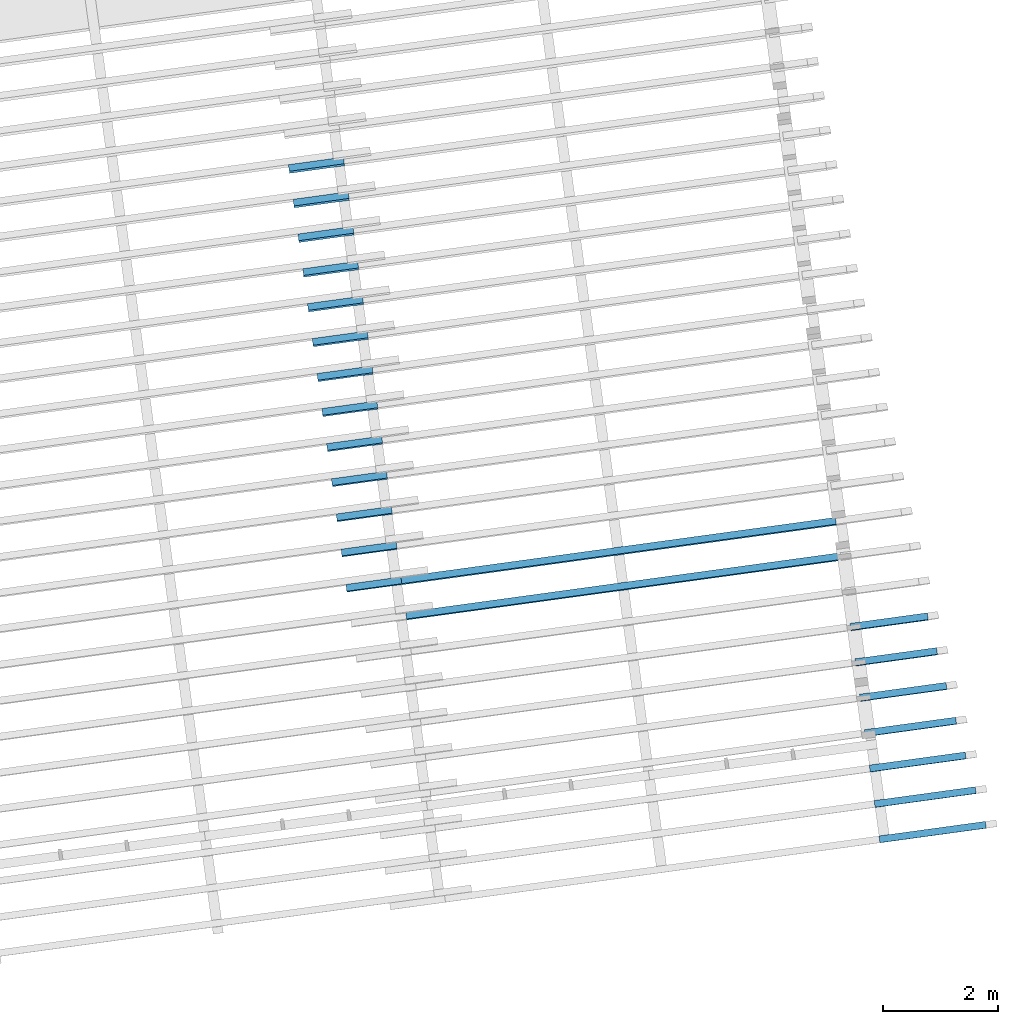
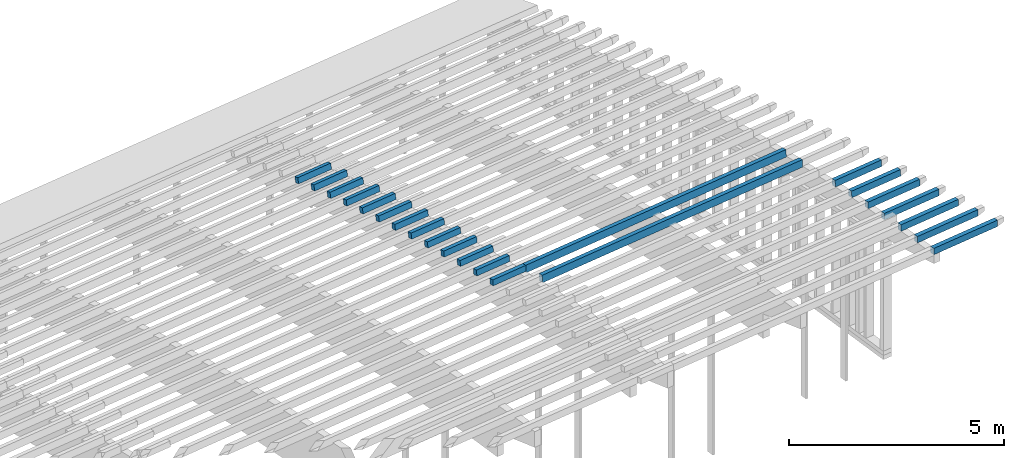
# One storey, part 11 of 18: 22 building element parts, 21 elements without a shape of their own.
"""IFC2X3 building model written with IfcOpenShell, lengths in metres."""

from ifc_helpers import new_model, entity, si_unit, converted_unit, derived_unit, money_unit, direction, frame, origin_with_axes, place, context, subcontext, project, spatial, faceted_brep, material, type_object, element, aggregate, save


model = new_model("IFC2X3")

# Units and contexts
model_context = context("Model", 3, precision=1e-05, world=origin_with_axes(), true_north=direction((0.0, 1.0)))
body_context = subcontext(model_context, "Body", "Model", "MODEL_VIEW")
ifc_project = project(units=[si_unit("LENGTHUNIT", "METRE"), si_unit("AREAUNIT", "SQUARE_METRE"), si_unit("VOLUMEUNIT", "CUBIC_METRE"), converted_unit("PLANEANGLEUNIT", "DEGREE", entity("IfcPlaneAngleMeasure", 0.0174532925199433), si_unit("PLANEANGLEUNIT", "RADIAN"), dimensions=[0, 0, 0, 0, 0, 0, 0]), money_unit("EUR"), converted_unit("TIMEUNIT", "Year", entity("IfcTimeMeasure", 31557600.0), si_unit("TIMEUNIT", "SECOND"), dimensions=[0, 0, 1, 0, 0, 0, 0]), si_unit("MASSUNIT", "GRAM", prefix="KILO"), si_unit("THERMODYNAMICTEMPERATUREUNIT", "DEGREE_CELSIUS"), si_unit("LUMINOUSINTENSITYUNIT", "LUMEN"), si_unit("ENERGYUNIT", "JOULE", prefix="MEGA"), derived_unit("THERMALCONDUCTANCEUNIT", [(si_unit("POWERUNIT", "WATT"), 1), (si_unit("LENGTHUNIT", "METRE"), -1), (si_unit("THERMODYNAMICTEMPERATUREUNIT", "KELVIN"), -1)]), derived_unit("SPECIFICHEATCAPACITYUNIT", [(si_unit("ENERGYUNIT", "JOULE"), 1), (si_unit("MASSUNIT", "GRAM", prefix="KILO"), -1), (si_unit("THERMODYNAMICTEMPERATUREUNIT", "KELVIN"), -1)]), derived_unit("MASSDENSITYUNIT", [(si_unit("MASSUNIT", "GRAM", prefix="KILO"), 1), (si_unit("VOLUMEUNIT", "CUBIC_METRE"), -1)])], contexts=[model_context])

# Site, building, storey
site_placement = place(None, origin_with_axes())
site = spatial("IfcSite", under=ifc_project, at=site_placement, Name="Gelände", CompositionType="ELEMENT")
building_placement = place(site_placement, origin_with_axes())
building = spatial("IfcBuilding", under=site, at=building_placement, Name="Gebäude", CompositionType="ELEMENT")
storey_placement = place(building_placement, frame((0.0, 0.0, 5.5), z_axis=(0.0, 0.0, 1.0), x_axis=(1.0, 0.0, 0.0)))
storey = spatial("IfcBuildingStorey", under=building, at=storey_placement, Name="OG", CompositionType="ELEMENT", Elevation=5.5)

# Beam, building element part
beam_type_1 = type_object("IfcBeamType", Name="Verschiedene Strukturen - 4 Segmente - 120 x 200 x 10694 (970+7659+1875+190)", PredefinedType="NOTDEFINED")
beam_1_placement = place(storey_placement, frame((105.3127329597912, -150.0833279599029, 4.984403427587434), z_axis=(0.0, 0.0, 1.0), x_axis=(0.13571118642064, -0.9907484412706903, 0.0)))
beam_1 = element("IfcBeam", 1, at=beam_1_placement, inside=storey, type_object=beam_type_1, Name="Unterzug-031")
ifc_material = material(Name="Bauholz")
building_element_part_1_placement = place(beam_1_placement, origin_with_axes())
building_element_part_1 = element("IfcBuildingElementPart", 2, at=building_element_part_1_placement, material=ifc_material, Name="Bauholz", context=body_context, shape_type="Brep", body=[
    faceted_brep([(-0.05820635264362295, 8.629151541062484, -0.1805879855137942), (-0.05820635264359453, 10.50400000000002, -0.1805879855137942), (0.06178770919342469, 10.504, -0.1793941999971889), (0.06178770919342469, 8.629151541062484, -0.1793941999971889), (-0.05999703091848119, 8.629151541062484, -0.0005968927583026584), (-0.05999703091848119, 10.504, -0.0005968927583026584), (0.05999703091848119, 10.504, 0.0005968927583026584), (0.05999703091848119, 8.629151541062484, 0.0005968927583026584)], [[[0, 1, 2, 3]], [[4, 5, 1, 0]], [[2, 1, 5, 6]], [[3, 2, 6, 7]], [[4, 0, 3, 7]], [[7, 6, 5, 4]]]),
])
aggregate(beam_1, [building_element_part_1])

beam_type_2 = type_object("IfcBeamType", Name="Verschiedene Strukturen - 4 Segmente - 120 x 200 x 10600 (970+7659+1781+190)", PredefinedType="NOTDEFINED")
beam_2_placement = place(storey_placement, frame((105.2280311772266, -149.4649695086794, 4.975930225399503), z_axis=(0.0, 0.0, 1.0), x_axis=(0.1357111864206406, -0.9907484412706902, 0.0)))
beam_2 = element("IfcBeam", 3, at=beam_2_placement, inside=storey, type_object=beam_type_2, Name="Unterzug-031")
building_element_part_2_placement = place(beam_2_placement, origin_with_axes())
building_element_part_2 = element("IfcBuildingElementPart", 4, at=building_element_part_2_placement, material=ifc_material, Name="Bauholz", context=body_context, shape_type="Brep", body=[
    faceted_brep([(-0.05672303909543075, 8.629154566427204, -0.1810593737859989), (-0.05672303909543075, 10.40999999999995, -0.1810593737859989), (0.0632571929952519, 10.40999999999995, -0.1788813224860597), (0.06325719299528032, 8.62915456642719, -0.1788813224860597), (-0.05999011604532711, 8.62915456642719, -0.001089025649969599), (-0.05999011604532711, 10.40999999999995, -0.001089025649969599), (0.05999011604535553, 10.40999999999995, 0.001089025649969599), (0.05999011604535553, 8.62915456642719, 0.001089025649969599)], [[[0, 1, 2, 3]], [[4, 5, 1, 0]], [[2, 1, 5, 6]], [[3, 2, 6, 7]], [[4, 0, 3, 7]], [[7, 6, 5, 4]]]),
])
aggregate(beam_2, [building_element_part_2])

beam_type_3 = type_object("IfcBeamType", Name="Verschiedene Strukturen - 4 Segmente - 120 x 200 x 10509 (970+7659+1690+190)", PredefinedType="NOTDEFINED")
beam_3_placement = place(storey_placement, frame((105.1432004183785, -148.8456694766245, 4.960992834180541), z_axis=(0.0, 0.0, 1.0), x_axis=(0.1357111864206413, -0.9907484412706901, 0.0)))
beam_3 = element("IfcBeam", 5, at=beam_3_placement, inside=storey, type_object=beam_type_3, Name="Unterzug-031")
building_element_part_3_placement = place(beam_3_placement, origin_with_axes())
building_element_part_3 = element("IfcBuildingElementPart", 6, at=building_element_part_3_placement, material=ifc_material, Name="Bauholz", context=body_context, shape_type="Brep", body=[
    faceted_brep([(-0.0547605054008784, 8.62915154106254, -0.1816625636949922), (-0.0547605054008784, 10.31899999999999, -0.1816625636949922), (0.06518913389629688, 10.31899999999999, -0.1781863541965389), (0.06518913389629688, 8.629151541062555, -0.1781863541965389), (-0.05997481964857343, 8.629151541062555, -0.001738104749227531), (-0.05997481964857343, 10.31899999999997, -0.001738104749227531), (0.05997481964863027, 10.31899999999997, 0.001738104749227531), (0.05997481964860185, 8.62915154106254, 0.001738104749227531)], [[[0, 1, 2, 3]], [[4, 5, 1, 0]], [[2, 1, 5, 6]], [[3, 2, 6, 7]], [[4, 0, 3, 7]], [[7, 6, 5, 4]]]),
])
aggregate(beam_3, [building_element_part_3])

beam_type_4 = type_object("IfcBeamType", Name="Verschiedene Strukturen - 4 Segmente - 120 x 200 x 10426 (970+7659+1607+190)", PredefinedType="NOTDEFINED")
beam_4_placement = place(storey_placement, frame((105.0584006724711, -148.2265958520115, 4.939661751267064), z_axis=(0.0, 0.0, 1.0), x_axis=(0.1357111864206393, -0.9907484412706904, 0.0)))
beam_4 = element("IfcBeam", 7, at=beam_4_placement, inside=storey, type_object=beam_type_4, Name="Unterzug-031")
building_element_part_4_placement = place(beam_4_placement, origin_with_axes())
building_element_part_4 = element("IfcBuildingElementPart", 8, at=building_element_part_4_placement, material=ifc_material, Name="Bauholz", context=body_context, shape_type="Brep", body=[
    faceted_brep([(0.06689657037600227, 8.629160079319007, -0.1775523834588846), (-0.05301417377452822, 8.629160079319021, -0.1821798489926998), (-0.05301417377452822, 10.23626930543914, -0.1821798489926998), (0.06689657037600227, 10.23626930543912, -0.1775523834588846), (0.05995537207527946, 8.629160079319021, 0.002313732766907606), (-0.05995537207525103, 8.629160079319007, -0.002313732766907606), (-0.05995537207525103, 10.23626930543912, -0.002313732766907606), (0.05995537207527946, 10.23626930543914, 0.002313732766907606)], [[[0, 1, 2, 3]], [[4, 5, 1, 0]], [[1, 5, 6, 2]], [[7, 3, 2, 6]], [[4, 0, 3, 7]], [[5, 4, 7, 6]]]),
])
aggregate(beam_4, [building_element_part_4])

beam_type_5 = type_object("IfcBeamType", Name="Verschiedene Strukturen - 4 Segmente - 120 x 200 x 10342 (970+7659+1523+190)", PredefinedType="NOTDEFINED")
beam_5_placement = place(storey_placement, frame((104.9736313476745, -147.6077443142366, 4.912074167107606), z_axis=(0.0, 0.0, 1.0), x_axis=(0.1357111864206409, -0.9907484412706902, 0.0)))
beam_5 = element("IfcBeam", 9, at=beam_5_placement, inside=storey, type_object=beam_type_5, Name="Unterzug-031")
building_element_part_5_placement = place(beam_5_placement, origin_with_axes())
building_element_part_5 = element("IfcBuildingElementPart", 10, at=building_element_part_5_placement, material=ifc_material, Name="Bauholz", context=body_context, shape_type="Brep", body=[
    faceted_brep([(0.06872132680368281, 8.629162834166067, -0.176854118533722), (-0.05113540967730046, 8.629162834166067, -0.1827160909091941), (-0.05113540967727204, 10.15194335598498, -0.1827160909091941), (0.06872132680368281, 10.15194335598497, -0.176854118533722), (0.05992836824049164, 8.629162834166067, 0.002930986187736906), (-0.05992836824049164, 8.629162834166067, -0.002930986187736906), (-0.05992836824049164, 10.15194335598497, -0.002930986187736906), (0.05992836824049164, 10.15194335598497, 0.002930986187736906)], [[[0, 1, 2, 3]], [[4, 5, 1, 0]], [[1, 5, 6, 2]], [[7, 3, 2, 6]], [[4, 0, 3, 7]], [[5, 4, 7, 6]]]),
])
aggregate(beam_5, [building_element_part_5])

beam_type_6 = type_object("IfcBeamType", Name="Verschiedene Strukturen - 4 Segmente - 120 x 200 x 10261 (970+7659+1442+190)", PredefinedType="NOTDEFINED")
beam_6_placement = place(storey_placement, frame((104.8889035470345, -146.9891959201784, 4.878264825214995), z_axis=(0.0, 0.0, 1.0), x_axis=(0.1357111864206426, -0.99074844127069, 0.0)))
beam_6 = element("IfcBeam", 11, at=beam_6_placement, inside=storey, type_object=beam_type_6, Name="Unterzug-031")
building_element_part_6_placement = place(beam_6_placement, origin_with_axes())
building_element_part_6 = element("IfcBuildingElementPart", 12, at=building_element_part_6_placement, material=ifc_material, Name="Bauholz", context=body_context, shape_type="Brep", body=[
    faceted_brep([(0.07056953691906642, 8.629165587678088, -0.1761247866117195), (-0.049219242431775, 8.629165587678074, -0.183241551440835), (-0.04921924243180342, 10.07111797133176, -0.183241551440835), (0.07056953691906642, 10.07111797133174, -0.1761247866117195), (0.05989438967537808, 8.629165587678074, 0.00355838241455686), (-0.05989438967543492, 8.62916558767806, -0.00355838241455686), (-0.05989438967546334, 10.07111797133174, -0.00355838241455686), (0.05989438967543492, 10.07111797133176, 0.00355838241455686)], [[[0, 1, 2, 3]], [[4, 5, 1, 0]], [[1, 5, 6, 2]], [[7, 3, 2, 6]], [[4, 0, 3, 7]], [[5, 4, 7, 6]]]),
])
aggregate(beam_6, [building_element_part_6])

beam_type_7 = type_object("IfcBeamType", Name="Verschiedene Strukturen - 4 Segmente - 120 x 200 x 10184 (970+7659+1365+190)", PredefinedType="NOTDEFINED")
beam_7_placement = place(storey_placement, frame((104.8042278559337, -146.3710279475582, 4.837969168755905), z_axis=(0.0, 0.0, 1.0), x_axis=(0.1357111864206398, -0.9907484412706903, 0.0)))
beam_7 = element("IfcBeam", 13, at=beam_7_placement, inside=storey, type_object=beam_type_7, Name="Unterzug-031")
building_element_part_7_placement = place(beam_7_placement, origin_with_axes())
building_element_part_7 = element("IfcBuildingElementPart", 14, at=building_element_part_7_placement, material=ifc_material, Name="Bauholz", context=body_context, shape_type="Brep", body=[
    faceted_brep([(0.07225693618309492, 8.629168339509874, -0.1754392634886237), (-0.04745800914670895, 8.629168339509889, -0.183705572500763), (-0.04745800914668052, 9.993783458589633, -0.183705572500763), (0.07225693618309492, 9.993783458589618, -0.1754392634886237), (0.05985747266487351, 8.629168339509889, 0.004133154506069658), (-0.05985747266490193, 8.629168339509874, -0.004133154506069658), (-0.05985747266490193, 9.993783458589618, -0.004133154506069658), (0.05985747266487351, 9.993783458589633, 0.004133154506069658)], [[[0, 1, 2, 3]], [[4, 5, 1, 0]], [[1, 5, 6, 2]], [[7, 3, 2, 6]], [[4, 0, 3, 7]], [[5, 4, 7, 6]]]),
])
aggregate(beam_7, [building_element_part_7])

beam_type_8 = type_object("IfcBeamType", Name="Verschiedene Strukturen - 4 Segmente - 120 x 200 x 10040 (970+7659+1220+190)", PredefinedType="NOTDEFINED")
beam_8_placement = place(storey_placement, frame((104.6350613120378, -145.1360413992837, 4.738673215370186), z_axis=(0.0, 0.0, 1.0), x_axis=(0.1357111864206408, -0.9907484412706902, 0.0)))
beam_8 = element("IfcBeam", 15, at=beam_8_placement, inside=storey, type_object=beam_type_8, Name="Unterzug-031")
building_element_part_8_placement = place(beam_8_placement, origin_with_axes())
building_element_part_8 = element("IfcBuildingElementPart", 16, at=building_element_part_8_placement, material=ifc_material, Name="Bauholz", context=body_context, shape_type="Brep", body=[
    faceted_brep([(-0.04511209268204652, 0.9699999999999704, -0.1647757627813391), (-0.04550138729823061, 0.9699999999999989, -0.164811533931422), (-0.04194790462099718, 0.9699999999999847, -0.204549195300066), (0.07757515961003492, 0.9699999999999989, -0.1938610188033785), (0.05976153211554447, 0.9699999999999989, 0.005344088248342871), (-0.05976153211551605, 0.9699999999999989, -0.005344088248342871), (-0.05974760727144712, 0.9699999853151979, -0.005498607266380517), (-0.04511209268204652, 1.451946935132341, -0.1647757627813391), (-0.04550129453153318, 1.451946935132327, -0.1648115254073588), (-0.05976153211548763, 8.62917495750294, -0.005344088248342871), (-0.04194790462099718, 8.629174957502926, -0.204549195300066), (-0.05974811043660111, 1.451946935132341, -0.005493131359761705), (-0.05976179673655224, 4.73293729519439, -0.005344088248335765), (-0.0455104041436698, 4.732937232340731, -0.1647107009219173), (-0.04551039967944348, 4.852937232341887, -0.1647107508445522), (-0.05976126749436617, 4.852937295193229, -0.005344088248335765), (0.07757515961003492, 8.62917495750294, -0.1938610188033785), (0.07401259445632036, 4.732939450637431, -0.1540217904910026), (0.05976126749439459, 4.732939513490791, 0.005344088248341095), (0.05976153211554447, 8.629174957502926, 0.005344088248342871), (0.05976179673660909, 4.852939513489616, 0.005344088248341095), (0.07401259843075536, 4.852939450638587, -0.1540218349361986), (-0.04474307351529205, 4.732937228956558, -0.1646377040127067), (-0.04474254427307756, 4.852937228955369, -0.1646377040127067), (0.07368400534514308, 4.732939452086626, -0.1540495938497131), (0.07368453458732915, 4.852939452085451, -0.1540495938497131)], [[[0, 1, 2, 3, 4, 5, 6]], [[7, 8, 1, 0]], [[9, 10, 2, 1, 8, 11, 6, 5, 12, 13, 14, 15]], [[10, 16, 3, 2]], [[17, 18, 4, 3, 16, 19, 20, 21]], [[15, 12, 5, 4, 18, 20, 19, 9]], [[11, 7, 0, 6]], [[11, 8, 7]], [[10, 9, 19, 16]], [[13, 12, 22]], [[23, 14, 13, 22]], [[23, 15, 14]], [[24, 18, 17]], [[21, 20, 25]], [[21, 25, 24, 17]], [[15, 23, 22, 12]], [[25, 20, 18, 24]]]),
])
aggregate(beam_8, [building_element_part_8])

beam_type_9 = type_object("IfcBeamType", Name="Verschiedene Strukturen - 4 Segmente - 120 x 200 x 9973 (970+7659+1153+190)", PredefinedType="NOTDEFINED")
beam_9_placement = place(storey_placement, frame((104.5505891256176, -144.5193590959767, 4.679531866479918), z_axis=(0.0, 0.0, 1.0), x_axis=(0.1357111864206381, -0.9907484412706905, 0.0)))
beam_9 = element("IfcBeam", 17, at=beam_9_placement, inside=storey, type_object=beam_type_9, Name="Unterzug-031")
building_element_part_9_placement = place(beam_9_placement, origin_with_axes())
building_element_part_9 = element("IfcBuildingElementPart", 18, at=building_element_part_9_placement, material=ifc_material, Name="Bauholz", context=body_context, shape_type="Brep", body=[
    faceted_brep([(-0.04384100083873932, 0.0, -0.16516042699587), (-0.0438410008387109, 0.7919469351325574, -0.16516042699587), (-0.04344862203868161, 0.7919469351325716, -0.1651213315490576), (-0.04344862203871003, 0.9699999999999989, -0.1651213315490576), (0.07556774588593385, 0.9699999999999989, -0.1532628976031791), (0.07556774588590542, 0.0, -0.1532628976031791), (-0.05969023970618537, 0.9699999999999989, -0.00605403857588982), (-0.05969384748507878, 0.7919469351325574, -0.006054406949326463), (-0.05970437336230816, 0.0, -0.005948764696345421), (-0.05970437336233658, 0.9699999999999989, -0.005948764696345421), (0.05970437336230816, 0.9699999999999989, 0.005948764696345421), (0.05970437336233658, 0.0, 0.005948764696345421)], [[[0, 1, 2, 3, 4, 5]], [[6, 7, 1, 0, 8, 9]], [[7, 2, 1]], [[7, 6, 3, 2]], [[3, 6, 9, 10, 4]], [[4, 10, 11, 5]], [[0, 5, 11, 8]], [[10, 9, 8, 11]]]),
])

beam_type_10 = type_object("IfcBeamType", Name="Verschiedene Strukturen - 4 Segmente - 120 x 200 x 9909 (970+7659+1090+190)", PredefinedType="NOTDEFINED")
beam_10_placement = place(storey_placement, frame((104.4662017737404, -143.9032961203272, 4.614089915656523), z_axis=(0.0, 0.0, 1.0), x_axis=(0.1357111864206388, -0.9907484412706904, 0.0)))
beam_10 = element("IfcBeam", 19, at=beam_10_placement, inside=storey, type_object=beam_type_10, Name="Unterzug-031")
building_element_part_10_placement = place(beam_10_placement, origin_with_axes())
building_element_part_10 = element("IfcBuildingElementPart", 20, at=building_element_part_10_placement, material=ifc_material, Name="Bauholz", context=body_context, shape_type="Brep", body=[
    faceted_brep([(-0.04208016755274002, 0.0, -0.1656178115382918), (-0.04208016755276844, 0.7919469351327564, -0.1656178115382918), (-0.04176214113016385, 0.791946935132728, -0.1655827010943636), (-0.04176214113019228, 0.9700000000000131, -0.1655827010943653), (0.07719514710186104, 0.9700000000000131, -0.1524496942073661), (0.07719514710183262, 0.0, -0.1524496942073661), (-0.05962937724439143, 0.9699999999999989, -0.006659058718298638), (-0.05962937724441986, 0.7919469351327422, -0.006659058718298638), (-0.05963765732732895, 0.0, -0.006584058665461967), (-0.05963765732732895, 0.9699999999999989, -0.006584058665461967), (-0.05961653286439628, 0.7919469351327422, -0.006657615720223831), (-0.05961653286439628, 0.9700000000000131, -0.006657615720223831), (0.05963765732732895, 0.9700000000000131, 0.006584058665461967), (0.05963765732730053, 0.0, 0.006584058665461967)], [[[0, 1, 2, 3, 4, 5]], [[6, 7, 1, 0, 8, 9]], [[10, 2, 1, 7]], [[10, 11, 3, 2]], [[3, 11, 6, 9, 12, 4]], [[13, 5, 4, 12]], [[13, 8, 0, 5]], [[10, 7, 6, 11]], [[8, 13, 12, 9]]]),
])
aggregate(beam_10, [building_element_part_10])

beam_type_11 = type_object("IfcBeamType", Name="Verschiedene Strukturen - 4 Segmente - 120 x 200 x 9849 (970+7659+1030+190)", PredefinedType="NOTDEFINED")
beam_11_placement = place(storey_placement, frame((104.3819138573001, -143.2879590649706, 4.54227047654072), z_axis=(0.0, 0.0, 1.0), x_axis=(0.1357111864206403, -0.9907484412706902, 0.0)))
beam_11 = element("IfcBeam", 21, at=beam_11_placement, inside=storey, type_object=beam_type_11, Name="Unterzug-031")
building_element_part_11_placement = place(beam_11_placement, origin_with_axes())
building_element_part_11 = element("IfcBuildingElementPart", 22, at=building_element_part_11_placement, material=ifc_material, Name="Bauholz", context=body_context, shape_type="Brep", body=[
    faceted_brep([(-0.04045946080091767, 0.0, -0.1660211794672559), (-0.04045946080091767, 0.7919469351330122, -0.1660211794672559), (-0.04010450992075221, 0.7919469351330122, -0.1659784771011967), (-0.04010450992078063, 0.9699999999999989, -0.1659784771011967), (0.07868145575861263, 0.9699999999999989, -0.1516879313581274), (0.07868145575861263, 0.0, -0.1516879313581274), (-0.05927993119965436, 0.9699999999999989, -0.009581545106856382), (-0.0592799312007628, 0.791946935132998, -0.009581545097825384), (-0.05957045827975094, 0.0, -0.007166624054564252), (-0.05957045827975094, 0.9699999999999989, -0.007166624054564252), (0.05957045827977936, 0.9700000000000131, 0.007166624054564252), (0.05957045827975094, 0.0, 0.007166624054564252)], [[[0, 1, 2, 3, 4, 5]], [[6, 7, 1, 0, 8, 9]], [[7, 2, 1]], [[7, 6, 3, 2]], [[4, 3, 6, 9, 10]], [[4, 10, 11, 5]], [[0, 5, 11, 8]], [[10, 9, 8, 11]]]),
])
aggregate(beam_11, [building_element_part_11])

beam_type_12 = type_object("IfcBeamType", Name="Verschiedene Strukturen - 4 Segmente - 120 x 200 x 9793 (970+7659+974+190)", PredefinedType="NOTDEFINED")
beam_12_placement = place(storey_placement, frame((104.2977254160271, -142.6733482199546, 4.46423359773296), z_axis=(0.0, 0.0, 1.0), x_axis=(0.135711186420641, -0.9907484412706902, 0.0)))
beam_12 = element("IfcBeam", 23, at=beam_12_placement, inside=storey, type_object=beam_type_12, Name="Unterzug-031")
building_element_part_12_placement = place(beam_12_placement, origin_with_axes())
building_element_part_12 = element("IfcBuildingElementPart", 24, at=building_element_part_12_placement, material=ifc_material, Name="Bauholz", context=body_context, shape_type="Brep", body=[
    faceted_brep([(-0.03872322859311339, 0.9700000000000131, -0.1664012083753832), (-0.03842463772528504, 0.9700000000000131, -0.1663615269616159), (-0.05949798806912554, 0.9700000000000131, -0.007790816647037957), (0.05949214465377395, 0.9700000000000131, 0.00779004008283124), (0.08026558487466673, 0.9700000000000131, -0.1508556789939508), (-0.03871870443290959, 0.9700000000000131, -0.1664357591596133), (-0.03842463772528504, 0.7919469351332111, -0.1663615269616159), (-0.03872322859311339, 0.7919469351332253, -0.166401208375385), (-0.05949798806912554, 0.7919469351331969, -0.007790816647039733), (-0.05949214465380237, 0.0, -0.00779004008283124), (0.05949214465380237, 0.0, 0.00779004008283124), (0.08026558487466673, 0.0, -0.1508556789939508), (-0.03871870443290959, 0.0, -0.1664357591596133)], [[[0, 1, 2, 3, 4, 5]], [[6, 1, 0, 7]], [[8, 2, 1, 6]], [[3, 2, 8, 9, 10]], [[10, 11, 4, 3]], [[11, 12, 5, 4]], [[8, 7, 0, 5, 12, 9]], [[6, 7, 8]], [[10, 9, 12, 11]]]),
])
aggregate(beam_12, [building_element_part_12])

beam_type_13 = type_object("IfcBeamType", Name="Verschiedene Strukturen - 4 Segmente - 120 x 200 x 9740 (970+7659+920+190)", PredefinedType="NOTDEFINED")
beam_13_placement = place(storey_placement, frame((104.2136436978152, -142.0595164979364, 4.380047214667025), z_axis=(0.0, 0.0, 1.0), x_axis=(0.13571118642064, -0.9907484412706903, 0.0)))
beam_13 = element("IfcBeam", 25, at=beam_13_placement, inside=storey, type_object=beam_type_13, Name="Unterzug-031")
building_element_part_13_placement = place(beam_13_placement, origin_with_axes())
building_element_part_13 = element("IfcBuildingElementPart", 26, at=building_element_part_13_placement, material=ifc_material, Name="Bauholz", context=body_context, shape_type="Brep", body=[
    faceted_brep([(-0.03711927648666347, 0.0, -0.166799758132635), (-0.03711927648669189, 0.7919469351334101, -0.166799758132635), (-0.03672131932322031, 0.7919469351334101, -0.1667437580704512), (-0.03672131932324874, 0.9700000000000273, -0.1667437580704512), (0.08170997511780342, 0.9700000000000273, -0.1500782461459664), (0.08170997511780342, 0.0, -0.1500782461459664), (-0.05939997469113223, 0.9700000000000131, -0.008464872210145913), (-0.05939997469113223, 0.7919469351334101, -0.00846487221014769), (-0.05941462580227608, 0.0, -0.008360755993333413), (-0.05941462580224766, 0.9700000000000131, -0.008360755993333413), (-0.05938890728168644, 0.7919469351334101, -0.008463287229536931), (-0.05938890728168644, 0.9700000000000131, -0.008463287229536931), (0.05941462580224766, 0.9700000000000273, 0.008360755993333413), (0.05941462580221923, 0.0, 0.008360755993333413)], [[[0, 1, 2, 3, 4, 5]], [[6, 7, 1, 0, 8, 9]], [[10, 2, 1, 7]], [[10, 11, 3, 2]], [[3, 11, 6, 9, 12, 4]], [[13, 5, 4, 12]], [[13, 8, 0, 5]], [[10, 7, 6, 11]], [[8, 13, 12, 9]]]),
])
aggregate(beam_13, [building_element_part_13])

# Building element part
building_element_part_14_placement = place(beam_9_placement, origin_with_axes())
building_element_part_14 = element("IfcBuildingElementPart", 27, at=building_element_part_14_placement, material=ifc_material, Name="Bauholz", context=body_context, shape_type="Brep", body=[
    faceted_brep([(-0.04383042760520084, 0.9699999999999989, -0.1652665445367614), (-0.04383068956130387, 1.451946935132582, -0.1652665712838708), (-0.05969410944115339, 1.451946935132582, -0.006054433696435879), (-0.05969023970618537, 0.9699999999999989, -0.00605403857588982), (-0.05970437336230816, 0.9700000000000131, -0.005948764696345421), (-0.0597046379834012, 4.732937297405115, -0.005948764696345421), (-0.04384075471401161, 4.732937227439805, -0.1651628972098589), (-0.04384074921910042, 4.852937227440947, -0.1651629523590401), (-0.05970410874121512, 4.852937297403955, -0.005948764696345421), (-0.05970437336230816, 8.629176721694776, -0.005948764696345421), (-0.03987515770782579, 8.62917672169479, -0.2049633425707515), (-0.03987515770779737, 0.9699999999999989, -0.2049633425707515), (-0.04343788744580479, 0.9699999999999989, -0.1652264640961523), (-0.04343788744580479, 1.451946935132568, -0.1652264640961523), (0.07953358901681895, 0.9700000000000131, -0.1930658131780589), (0.05970437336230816, 0.9699999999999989, 0.005948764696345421), (0.05970410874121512, 4.732939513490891, 0.005948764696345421), (0.05970463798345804, 4.85293951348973, 0.005948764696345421), (0.05970437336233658, 8.62917672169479, 0.005948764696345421), (-0.04308338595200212, 4.732937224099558, -0.165083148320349), (-0.04308285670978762, 4.852937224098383, -0.165083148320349), (0.07953358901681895, 8.62917672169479, -0.1930658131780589), (0.07556790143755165, 4.732939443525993, -0.1532644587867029), (0.0755679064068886, 4.852939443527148, -0.1532645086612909), (0.0752888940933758, 4.732939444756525, -0.1532910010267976), (0.0752894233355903, 4.85293944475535, -0.1532910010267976)], [[[0, 1, 2, 3, 4, 5, 6, 7, 8, 9, 10, 11]], [[12, 13, 1, 0]], [[13, 2, 1]], [[2, 13, 12, 3]], [[4, 3, 12, 0, 11, 14, 15]], [[15, 16, 17, 18, 9, 8, 5, 4]], [[5, 19, 6]], [[20, 7, 6, 19]], [[7, 20, 8]], [[9, 18, 21, 10]], [[21, 14, 11, 10]], [[22, 16, 15, 14, 21, 18, 17, 23]], [[16, 24, 25, 17]], [[19, 5, 8, 20]], [[22, 24, 16]], [[17, 25, 23]], [[22, 23, 25, 24]]]),
])

aggregate(beam_9, [building_element_part_9, building_element_part_14])

# Beam, building element part
beam_type_14 = type_object("IfcBeamType", Name="Verschiedene Strukturen - 4 Segmente - 120 x 200 x 9690 (970+7659+871+190)", PredefinedType="NOTDEFINED")
beam_14_placement = place(storey_placement, frame((104.1296893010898, -141.4466142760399, 4.289462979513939), z_axis=(0.0, 0.0, 1.0), x_axis=(0.1357111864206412, -0.9907484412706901, 0.0)))
beam_14 = element("IfcBeam", 28, at=beam_14_placement, inside=storey, type_object=beam_type_14, Name="Unterzug-031")
building_element_part_15_placement = place(beam_14_placement, origin_with_axes())
building_element_part_15 = element("IfcBuildingElementPart", 29, at=building_element_part_15_placement, material=ifc_material, Name="Bauholz", context=body_context, shape_type="Brep", body=[
    faceted_brep([(-0.03556655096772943, 0.0, -0.1671377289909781), (-0.035566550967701, 0.7919469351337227, -0.1671377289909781), (-0.0350567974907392, 0.7919469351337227, -0.1670611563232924), (-0.03505679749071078, 0.9700000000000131, -0.1670611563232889), (0.08310206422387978, 0.9700000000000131, -0.1493119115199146), (0.08310206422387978, 0.0, -0.1493119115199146), (-0.0590051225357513, 0.9700000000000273, -0.01110433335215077), (-0.05900512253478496, 0.7919469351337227, -0.01110433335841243), (-0.0593343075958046, 0.0, -0.008912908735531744), (-0.0593343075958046, 0.9700000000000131, -0.008912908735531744), (0.05933430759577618, 0.9700000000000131, 0.008912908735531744), (0.05933430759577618, 0.0, 0.008912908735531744)], [[[0, 1, 2, 3, 4, 5]], [[6, 7, 1, 0, 8, 9]], [[7, 2, 1]], [[7, 6, 3, 2]], [[4, 3, 6, 9, 10]], [[4, 10, 11, 5]], [[0, 5, 11, 8]], [[10, 9, 8, 11]]]),
])
aggregate(beam_14, [building_element_part_15])

beam_type_15 = type_object("IfcBeamType", Name="Verschiedene Strukturen - 4 Segmente - 120 x 200 x 9644 (970+7659+825+190)", PredefinedType="NOTDEFINED")
beam_15_placement = place(storey_placement, frame((104.0458601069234, -140.834626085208, 4.19267556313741), z_axis=(0.0, 0.0, 1.0), x_axis=(0.1357111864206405, -0.9907484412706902, 0.0)))
beam_15 = element("IfcBeam", 30, at=beam_15_placement, inside=storey, type_object=beam_type_15, Name="Unterzug-031")
building_element_part_16_placement = place(beam_15_placement, origin_with_axes())
building_element_part_16 = element("IfcBuildingElementPart", 31, at=building_element_part_16_placement, material=ifc_material, Name="Bauholz", context=body_context, shape_type="Brep", body=[
    faceted_brep([(-0.03373490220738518, 0.0, -0.1675170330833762), (-0.0337349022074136, 0.7919469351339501, -0.1675170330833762), (-0.03335672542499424, 0.7919469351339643, -0.1674559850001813), (-0.03335672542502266, 0.9700000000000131, -0.1674559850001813), (0.08473147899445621, 0.9699999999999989, -0.1483933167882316), (0.08473147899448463, 0.0, -0.1483933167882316), (-0.05871912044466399, 0.9699999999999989, -0.0127463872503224), (-0.05871912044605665, 0.7919469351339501, -0.01274638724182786), (-0.0592331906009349, 0.0, -0.009561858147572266), (-0.0592331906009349, 0.9699999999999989, -0.009561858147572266), (0.0592331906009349, 0.9700000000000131, 0.009561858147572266), (0.05923319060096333, 0.0, 0.009561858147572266)], [[[0, 1, 2, 3, 4, 5]], [[6, 7, 1, 0, 8, 9]], [[7, 2, 1]], [[7, 6, 3, 2]], [[4, 3, 6, 9, 10]], [[4, 10, 11, 5]], [[0, 5, 11, 8]], [[10, 9, 8, 11]]]),
])
aggregate(beam_15, [building_element_part_16])

beam_type_16 = type_object("IfcBeamType", Name="Verschiedene Strukturen - 4 Segmente - 120 x 200 x 9601 (970+7659+782+190)", PredefinedType="NOTDEFINED")
beam_16_placement = place(storey_placement, frame((103.9621682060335, -140.223640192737, 4.089610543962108), z_axis=(0.0, 0.0, 1.0), x_axis=(0.1357111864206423, -0.99074844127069, 0.0)))
beam_16 = element("IfcBeam", 32, at=beam_16_placement, inside=storey, type_object=beam_type_16, Name="Unterzug-031")
building_element_part_17_placement = place(beam_16_placement, origin_with_axes())
building_element_part_17 = element("IfcBuildingElementPart", 33, at=building_element_part_17_placement, material=ifc_material, Name="Bauholz", context=body_context, shape_type="Brep", body=[
    faceted_brep([(-0.03202030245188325, 0.0, -0.1678532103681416), (-0.03202030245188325, 0.7919469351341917, -0.1678532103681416), (-0.03165514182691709, 0.7919469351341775, -0.1677904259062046), (-0.03165514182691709, 0.9699999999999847, -0.1677904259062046), (0.08624434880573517, 0.9699999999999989, -0.1475191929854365), (0.08624434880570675, 0.0, -0.1475191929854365), (-0.05883581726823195, 0.9699999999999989, -0.01189153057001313), (-0.05883581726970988, 0.7919469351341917, -0.01189153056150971), (-0.05913232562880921, 0.0, -0.01016700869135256), (-0.05913232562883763, 0.9699999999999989, -0.01016700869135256), (0.05913232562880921, 0.9699999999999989, 0.01016700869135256), (0.05913232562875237, 0.0, 0.01016700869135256)], [[[0, 1, 2, 3, 4, 5]], [[6, 7, 1, 0, 8, 9]], [[7, 2, 1]], [[7, 6, 3, 2]], [[4, 3, 6, 9, 10]], [[4, 10, 11, 5]], [[0, 5, 11, 8]], [[10, 9, 8, 11]]]),
])
aggregate(beam_16, [building_element_part_17])

beam_type_17 = type_object("IfcBeamType", Name="Verschiedene Strukturen - 4 Segmente - 120 x 200 x 9561 (970+7659+742+190)", PredefinedType="NOTDEFINED")
beam_17_placement = place(storey_placement, frame((103.8786249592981, -139.6137395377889, 3.980241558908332), z_axis=(0.0, 0.0, 1.0), x_axis=(0.1357111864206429, -0.99074844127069, 0.0)))
beam_17 = element("IfcBeam", 34, at=beam_17_placement, inside=storey, type_object=beam_type_17, Name="Unterzug-031")
building_element_part_18_placement = place(beam_17_placement, origin_with_axes())
building_element_part_18 = element("IfcBuildingElementPart", 35, at=building_element_part_18_placement, material=ifc_material, Name="Bauholz", context=body_context, shape_type="Brep", body=[
    faceted_brep([(-0.03024177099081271, 0.0, -0.1681827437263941), (-0.03024177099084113, 0.7919469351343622, -0.1681827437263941), (-0.02995419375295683, 0.7919469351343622, -0.1681301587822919), (-0.02995419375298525, 0.9699999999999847, -0.1681301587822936), (0.08780101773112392, 0.9699999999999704, -0.146598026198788), (0.0878010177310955, 0.0, -0.146598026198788), (-0.0582275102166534, 0.9699999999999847, -0.0151339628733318), (-0.05822751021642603, 0.7919469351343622, -0.01513396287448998), (-0.05902139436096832, 0.0, -0.01079235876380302), (-0.05902139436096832, 0.9699999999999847, -0.01079235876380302), (0.05902139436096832, 0.9699999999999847, 0.01079235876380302), (0.05902139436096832, 0.0, 0.01079235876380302)], [[[0, 1, 2, 3, 4, 5]], [[6, 7, 1, 0, 8, 9]], [[7, 2, 1]], [[7, 6, 3, 2]], [[4, 3, 6, 9, 10]], [[4, 10, 11, 5]], [[0, 5, 11, 8]], [[10, 9, 8, 11]]]),
])
aggregate(beam_17, [building_element_part_18])

beam_type_18 = type_object("IfcBeamType", Name="Verschiedene Strukturen - 4 Segmente - 120 x 200 x 9525 (970+7659+706+190)", PredefinedType="NOTDEFINED")
beam_18_placement = place(storey_placement, frame((103.7952358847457, -139.0049644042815, 3.864643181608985), z_axis=(0.0, 0.0, 1.0), x_axis=(0.1357111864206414, -0.9907484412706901, 0.0)))
beam_18 = element("IfcBeam", 36, at=beam_18_placement, inside=storey, type_object=beam_type_18, Name="Unterzug-031")
building_element_part_19_placement = place(beam_18_placement, origin_with_axes())
building_element_part_19 = element("IfcBuildingElementPart", 37, at=building_element_part_19_placement, material=ifc_material, Name="Bauholz", context=body_context, shape_type="Brep", body=[
    faceted_brep([(0.08934784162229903, 0.0, -0.1456604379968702), (-0.02845985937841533, 0.0, -0.1684934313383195), (-0.02845985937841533, 0.9699999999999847, -0.1684934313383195), (0.08934784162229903, 0.9699999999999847, -0.1456604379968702), (0.05890385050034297, 0.0, 0.01141649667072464), (-0.05890385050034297, 0.0, -0.01141649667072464), (-0.05890385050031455, 0.9699999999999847, -0.01141649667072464), (0.05890385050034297, 0.9700000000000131, 0.01141649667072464)], [[[0, 1, 2, 3]], [[4, 5, 1, 0]], [[1, 5, 6, 2]], [[7, 3, 2, 6]], [[4, 0, 3, 7]], [[5, 4, 7, 6]]]),
])
aggregate(beam_18, [building_element_part_19])

beam_type_19 = type_object("IfcBeamType", Name="Verschiedene Strukturen - 4 Segmente - 120 x 200 x 9492 (970+7659+673+190)", PredefinedType="NOTDEFINED")
beam_19_placement = place(storey_placement, frame((103.7120060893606, -138.3973520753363, 3.742971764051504), z_axis=(0.0, 0.0, 1.0), x_axis=(0.135711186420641, -0.9907484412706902, 0.0)))
beam_19 = element("IfcBeam", 38, at=beam_19_placement, inside=storey, type_object=beam_type_19, Name="Unterzug-031")
building_element_part_20_placement = place(beam_19_placement, origin_with_axes())
building_element_part_20 = element("IfcBuildingElementPart", 39, at=building_element_part_20_placement, material=ifc_material, Name="Bauholz", context=body_context, shape_type="Brep", body=[
    faceted_brep([(0.09088451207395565, 0.9699999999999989, -0.14470661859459), (0.09088451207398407, 0.0, -0.14470661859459), (-0.02667492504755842, 0.0, -0.1687852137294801), (-0.02667492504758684, 0.9699999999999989, -0.1687852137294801), (0.05877971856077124, 0.9699999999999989, 0.01203929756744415), (0.05877971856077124, 0.0, 0.01203929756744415), (-0.0587797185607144, 0.0, -0.01203929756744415), (-0.05877971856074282, 0.9700000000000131, -0.01203929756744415)], [[[0, 1, 2, 3]], [[4, 5, 1, 0]], [[1, 5, 6, 2]], [[3, 2, 6, 7]], [[7, 4, 0, 3]], [[7, 6, 5, 4]]]),
])
aggregate(beam_19, [building_element_part_20])

beam_type_20 = type_object("IfcBeamType", Name="Verschiedene Strukturen - 4 Segmente - 120 x 200 x 9463 (970+7659+644+190)", PredefinedType="NOTDEFINED")
beam_20_placement = place(storey_placement, frame((103.6289532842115, -137.7910318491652, 3.614903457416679), z_axis=(0.0, 0.0, 1.0), x_axis=(0.1357111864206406, -0.9907484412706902, 0.0)))
beam_20 = element("IfcBeam", 40, at=beam_20_placement, inside=storey, type_object=beam_type_20, Name="Unterzug-031")
building_element_part_21_placement = place(beam_20_placement, origin_with_axes())
building_element_part_21 = element("IfcBuildingElementPart", 41, at=building_element_part_21_placement, material=ifc_material, Name="Bauholz", context=body_context, shape_type="Brep", body=[
    faceted_brep([(0.09241126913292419, 0.0, -0.1437364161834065), (-0.02488668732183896, 0.0, -0.1690581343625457), (-0.02488668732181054, 0.9699999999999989, -0.1690581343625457), (0.09241126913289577, 0.9700000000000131, -0.1437364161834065), (0.05864897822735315, 0.0, 0.0126608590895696), (-0.05864897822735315, 0.0, -0.0126608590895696), (-0.05864897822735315, 0.9699999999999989, -0.0126608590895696), (0.05864897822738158, 0.9699999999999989, 0.0126608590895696)], [[[0, 1, 2, 3]], [[4, 5, 1, 0]], [[1, 5, 6, 2]], [[7, 3, 2, 6]], [[4, 0, 3, 7]], [[5, 4, 7, 6]]]),
])
aggregate(beam_20, [building_element_part_21])

beam_type_21 = type_object("IfcBeamType", Name="Verschiedene Strukturen - 4 Segmente - 120 x 200 x 9437 (970+7659+617+190)", PredefinedType="NOTDEFINED")
beam_21_placement = place(storey_placement, frame((103.5460778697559, -137.1860066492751, 3.480744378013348), z_axis=(0.0, 0.0, 1.0), x_axis=(0.1357111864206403, -0.9907484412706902, 0.0)))
beam_21 = element("IfcBeam", 42, at=beam_21_placement, inside=storey, type_object=beam_type_21, Name="Unterzug-031")
building_element_part_22_placement = place(beam_21_placement, origin_with_axes())
building_element_part_22 = element("IfcBuildingElementPart", 43, at=building_element_part_22_placement, material=ifc_material, Name="Bauholz", context=body_context, shape_type="Brep", body=[
    faceted_brep([(0.09392725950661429, 0.0, -0.1427503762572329), (-0.02309614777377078, 0.0, -0.1693120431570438), (-0.02309614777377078, 0.9700000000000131, -0.1693120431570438), (0.09392725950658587, 0.9699999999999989, -0.1427503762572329), (0.05851170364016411, 0.0, 0.01328083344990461), (-0.05851170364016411, 0.0, -0.01328083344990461), (-0.05851170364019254, 0.9700000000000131, -0.01328083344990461), (0.05851170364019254, 0.9700000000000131, 0.01328083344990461)], [[[0, 1, 2, 3]], [[4, 5, 1, 0]], [[1, 5, 6, 2]], [[7, 3, 2, 6]], [[4, 0, 3, 7]], [[5, 4, 7, 6]]]),
])
aggregate(beam_21, [building_element_part_22])

save(model, "model.ifc")
